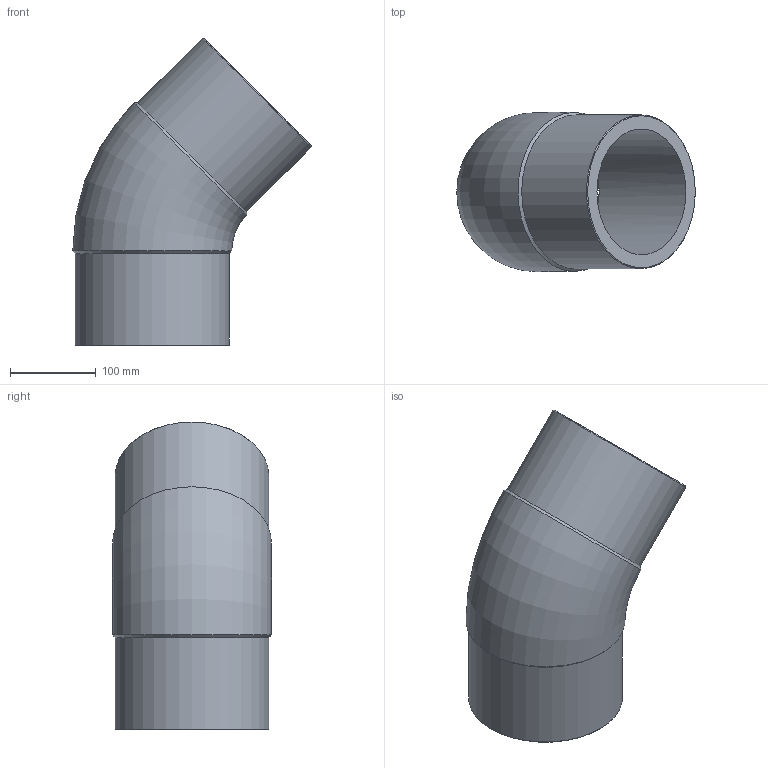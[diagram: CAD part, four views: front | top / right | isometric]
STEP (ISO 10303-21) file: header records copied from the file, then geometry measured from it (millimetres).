
FILE_DESCRIPTION(/* description */ ('Unknown'),/* implementation_level */ '2;1');
FILE_NAME(/* name */ 'G4P180C',/* time_stamp */ '2022-01-19T11:23:07+01:00',/* author */ ('Unknown'),/* organization */ ('Unknown'),/* preprocessor_version */ 'ST-DEVELOPER v18.1',/* originating_system */ 'Solid Edge',/* authorisation */ 'Unknown');
FILE_SCHEMA (('AUTOMOTIVE_DESIGN {1 0 10303 214 3 1 1}'));
Length unit declared in the file: millimetre
Products named in the file (1): G4P180C
Bounding box: 278.97 x 186 x 359.97 mm (x, y, z)
Volume: 3117721.4 mm3; surface area: 370973.2 mm2
Topology: 1 solids, 1 shells, 12 faces, 30 edges, 20 vertices
Faces by surface type: cone 4, cylinder 4, plane 2, torus 2
Full cylindrical faces by diameter (mm): 147.2 x2, 180 x2
Entity records: 328 total; most frequent: CARTESIAN_POINT 62, DIRECTION 52, ORIENTED_EDGE 34, AXIS2_PLACEMENT_3D 26, EDGE_LOOP 23, FACE_BOUND 23, EDGE_CURVE 17, VERTEX_POINT 16
